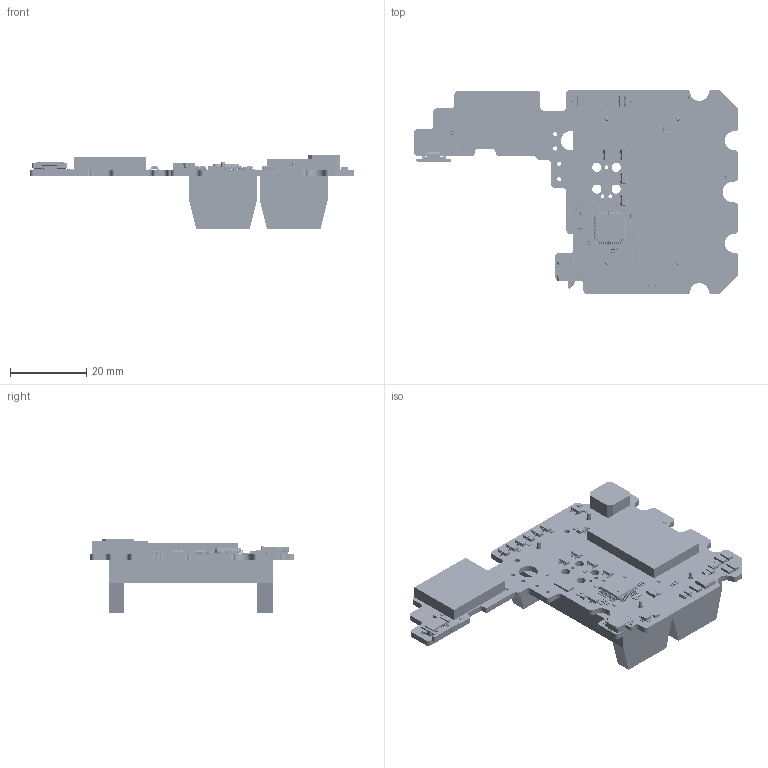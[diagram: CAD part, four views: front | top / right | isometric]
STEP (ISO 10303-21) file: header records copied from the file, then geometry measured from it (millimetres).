
FILE_DESCRIPTION(('Open CASCADE Model'),'2;1');
FILE_NAME('Open CASCADE Shape Model','2019-01-26T16:08:43',('Author'),( 'Open CASCADE'),'Open CASCADE STEP processor 6.8','Open CASCADE 6.8' ,'Unknown');
FILE_SCHEMA(('AUTOMOTIVE_DESIGN { 1 0 10303 214 1 1 1 1 }'));
Length unit declared in the file: millimetre
Products named in the file (121): PCB; Board; Open CASCADE STEP translator 6.8 2.1.1; R203; User_Library-0402R; R108; U300; 6612096224; Extruded; C307; User_Library-0402C; C306; CAP_0603; C305; C300; D204; User_Library-SOD323-1; R400; R309; R107; R106; R308; R307; R306; D203; R105; R104; D202; User_Library-SOT-143; D102; D101; U101; User_Library-lga-2x2x0_9; R103; R102; C109; C108; C107; C213; CAP_1206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
Assembly tree (233 placements, depth 4):
  PCB
    Board
      Open CASCADE STEP translator 6.8 2.1.1
    R203
      User_Library-0402R
    R108
      User_Library-0402R
    U300
      6612096224
        Extruded
    C307
      User_Library-0402C
    C306
      CAP_0603
    C305
      User_Library-0402C
    C300
      CAP_0603
    D204
      User_Library-SOD323-1
    R400
      User_Library-0402R
    R309
      User_Library-0402R
    R107
      User_Library-0402R
    R106
      User_Library-0402R
    R308
      User_Library-0402R
    R307
      User_Library-0402R
    R306
      User_Library-0402R
    D203
      User_Library-SOD323-1
    R105
      User_Library-0402R
    R104
      User_Library-0402R
    D202
      User_Library-SOT-143
    D102
      User_Library-SOT-143
    D101
      User_Library-SOT-143
    U101
      User_Library-lga-2x2x0_9
    R103
      User_Library-0402R
    R102
      User_Library-0402R
    C109
      User_Library-0402C
    C108
      CAP_0603
    C107
      User_Library-0402C
    C213
      CAP_1206
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Bounding box: 85.3 x 53.7 x 19.59 mm (x, y, z)
Volume: 14115.2 mm3; surface area: 15757.9 mm2
Topology: 184 solids, 184 shells, 15651 faces, 37521 edges, 21387 vertices
Faces by surface type: cylinder 5022, plane 5013, bspline 3935, sphere 1297, torus 197, revolution 176, cone 11
Full cylindrical faces by diameter (mm): 1 x5, 1.1 x3, 1.3 x1, 1.4 x4, 1.5 x2, 2.4 x4, 5 x1
Entity records: 102089 total; most frequent: CARTESIAN_POINT 30161, ORIENTED_EDGE 12986, DIRECTION 11186, EDGE_CURVE 6493, LINE 4336, VECTOR 4336, VERTEX_POINT 4113, AXIS2_PLACEMENT_3D 3421
